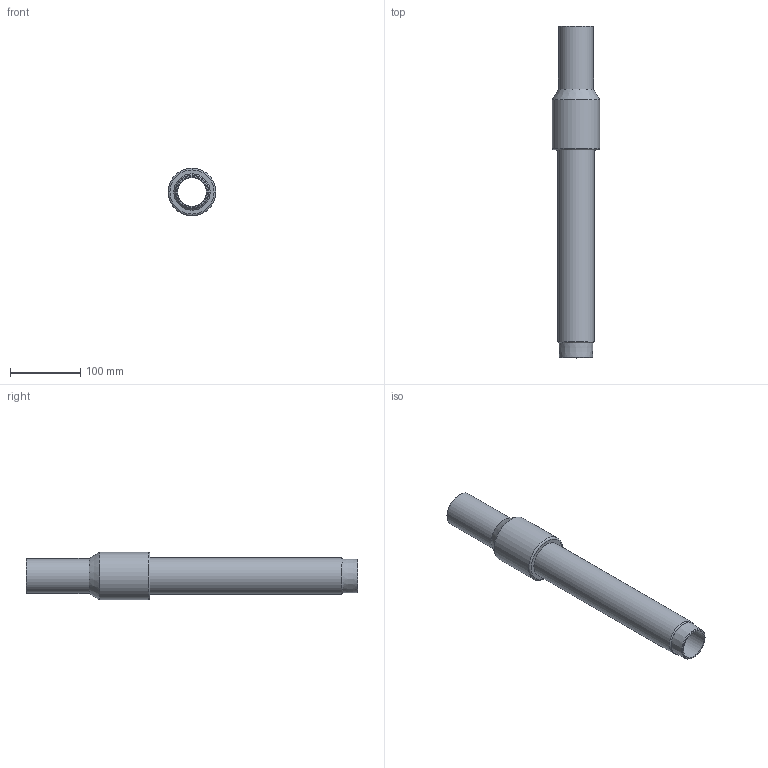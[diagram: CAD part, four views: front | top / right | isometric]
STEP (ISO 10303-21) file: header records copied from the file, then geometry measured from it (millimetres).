
FILE_DESCRIPTION(/* description */ ('Unknown'),/* implementation_level */ '2;1');
FILE_NAME(/* name */ 'RTFZRP050C',/* time_stamp */ '2022-04-27T09:01:03+02:00',/* author */ ('Unknown'),/* organization */ ('Unknown'),/* preprocessor_version */ 'ST-DEVELOPER v18.1',/* originating_system */ 'Solid Edge',/* authorisation */ 'Unknown');
FILE_SCHEMA (('AUTOMOTIVE_DESIGN {1 0 10303 214 3 1 1}'));
Length unit declared in the file: millimetre
Products named in the file (4): RTFZRP050C; Partea ACCIAIO; copertura tubo; Parte PE__oa_0
Assembly tree (3 placements, depth 2):
  RTFZRP050C
    Partea ACCIAIO
    copertura tubo
    Parte PE__oa_0
Bounding box: 68 x 474 x 68 mm (x, y, z)
Volume: 454394.6 mm3; surface area: 276390.7 mm2
Topology: 3 solids, 3 shells, 21 faces, 36 edges, 22 vertices
Faces by surface type: cylinder 8, plane 7, cone 4, torus 2
Full cylindrical faces by diameter (mm): 40.8 x1, 41.9 x1, 48.3 x2, 50 x1, 51.9 x2, 68 x1
Entity records: 574 total; most frequent: DIRECTION 92, CARTESIAN_POINT 67, AXIS2_PLACEMENT_3D 46, ORIENTED_EDGE 42, EDGE_LOOP 42, FACE_BOUND 42, EDGE_CURVE 21, VERTEX_POINT 21
